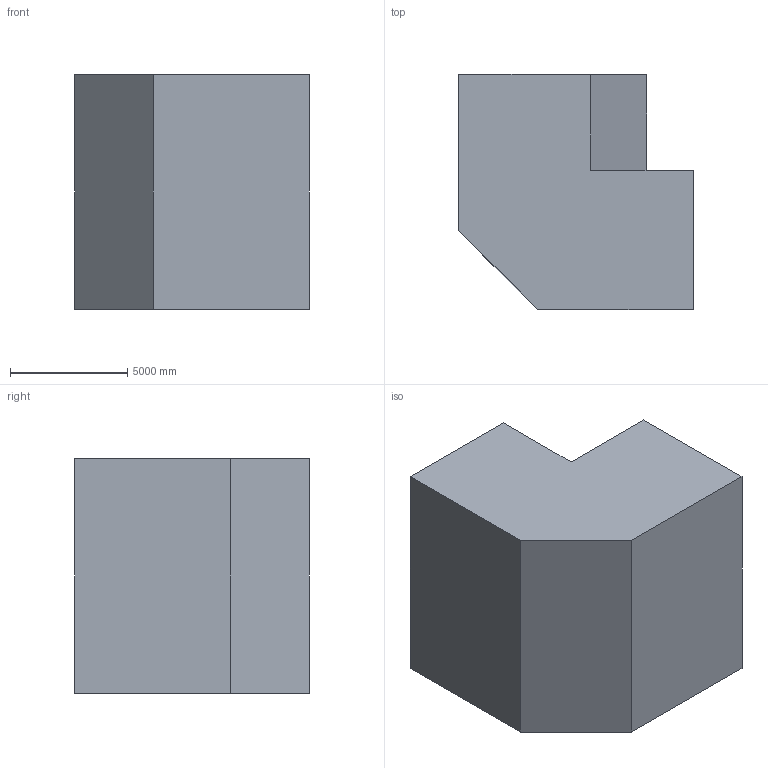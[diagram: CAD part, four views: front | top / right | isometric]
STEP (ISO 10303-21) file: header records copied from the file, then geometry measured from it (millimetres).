
FILE_DESCRIPTION (( 'STEP AP203' ), '1' );
FILE_NAME ('1074.STEP', '2022-08-18T12:39:29', ( 'user' ), ( '' ), 'SwSTEP 2.0', 'SolidWorks 2021', '' );
FILE_SCHEMA (( 'CONFIG_CONTROL_DESIGN' ));
Length unit declared in the file: centimetre
Products named in the file (1): 1074
Bounding box: 10000 x 10000 x 10000 mm (x, y, z)
Volume: 813519187374 mm3; surface area: 537691795.3 mm2
Topology: 1 solids, 1 shells, 10 faces, 24 edges, 16 vertices
Faces by surface type: plane 10
Entity records: 365 total; most frequent: CARTESIAN_POINT 51, ORIENTED_EDGE 48, DIRECTION 46, LINE 24, VECTOR 24, EDGE_CURVE 24, VERTEX_POINT 16, AXIS2_PLACEMENT_3D 11
